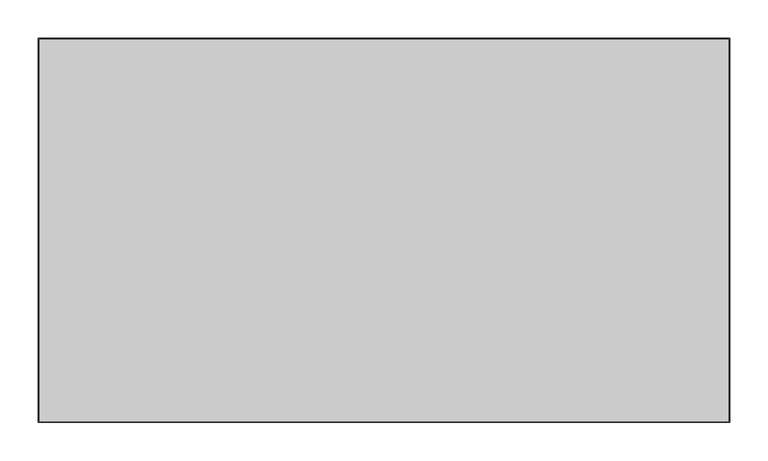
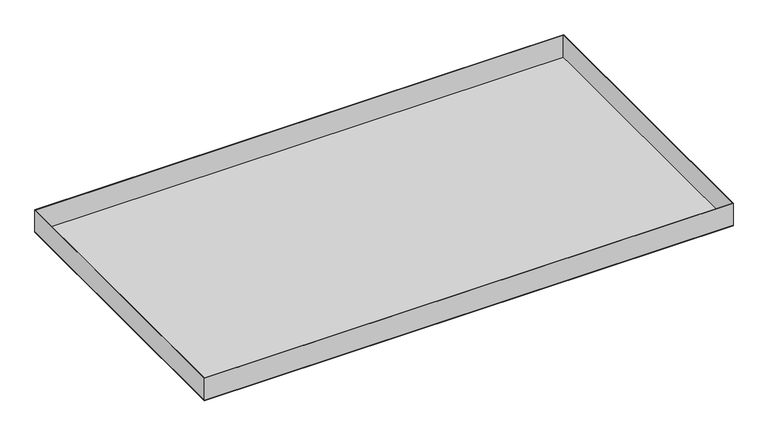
"""IFC4 building model written with IfcOpenShell, lengths in millimetres: proxy geometry, durlum_S5-100_RHOMBOS_panel : durlum_S5-100_RHOMBOS_panel_wall_width_cut."""

from ifc_helpers import new_model, si_unit, frame, origin, origin_with_axes, place, context, project, spatial, polyline, outline, extrude, source, transform, mapped, element, save


def generic_models_9048d963(model_context):
    return source(origin(), model_context, "Body", "SweptSolid", [
        extrude(outline(polyline([(449.5, 249.75), (449.5, -249.75), (-449.5, -249.75), (-449.5, 249.75), (449.5, 249.75)]), holes=[polyline([(448.5, 248.75), (-448.5, 248.75), (-448.5, -248.75), (448.5, -248.75), (448.5, 248.75)])]), frame((0.0, 0.0, 1.0), z_axis=(0.0, 0.0, 1.0), x_axis=(1.0, 0.0, 0.0)), (0.0, 0.0, 1.0), 39.0),
        extrude(outline(polyline([(449.5, 249.75), (449.5, -249.75), (-449.5, -249.75), (-449.5, 249.75), (449.5, 249.75)])), origin_with_axes(), (0.0, 0.0, 1.0), 1.0),
    ])


if __name__ == "__main__":
    model = new_model("IFC4")
    model_context = context("Model", 3, world=origin())
    ifc_project = project(units=[si_unit("LENGTHUNIT", "METRE", prefix="MILLI")], contexts=[model_context])
    site = spatial("IfcSite", under=ifc_project)
    building = spatial("IfcBuilding", under=site)
    placement = place(None, origin())
    generic_models_shape = generic_models_9048d963(model_context)
    element("IfcBuildingElementProxy", 1, Name="durlum_S5-100_RHOMBOS_panel : durlum_S5-100_RHOMBOS_panel_wall_width_cut", ObjectType="durlum_S5-100_RHOMBOS_panel : durlum_S5-100_RHOMBOS_panel_wall_width_cut", at=placement, inside=building, context=model_context, shape_type="MappedRepresentation", body=[
        mapped(generic_models_shape, transform((0.0, 0.0, 0.0), x_axis=(1.0, 0.0, 0.0), y_axis=(0.0, 1.0, 0.0), z_axis=(0.0, 0.0, 1.0))),
    ])
    save(model, "model.ifc")
